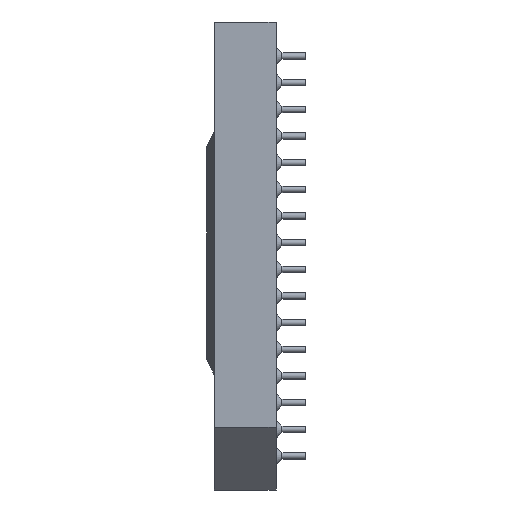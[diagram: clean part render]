
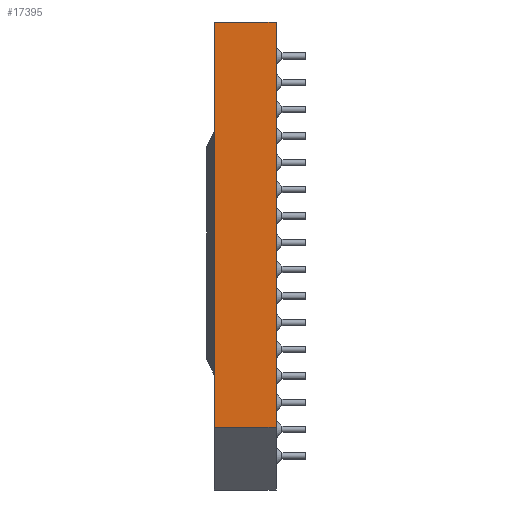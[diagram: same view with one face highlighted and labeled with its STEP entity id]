
A CAD part, left-side view. The second image highlights one B-rep face of the part: STEP entity #17395.
In plain terms, the highlighted planar face has unit normal (-1, 0, 0).
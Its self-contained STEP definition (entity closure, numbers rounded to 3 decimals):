
#306 = DIRECTION ( 'NONE',  ( 1., 0., 0. ) ) ;
#582 = VECTOR ( 'NONE', #23224, 1000. ) ;
#1046 = DIRECTION ( 'NONE',  ( 0., -1., 0. ) ) ;
#1106 = CARTESIAN_POINT ( 'NONE',  ( -16.1, 0., 11.15 ) ) ;
#2891 = EDGE_CURVE ( 'NONE', #16137, #19442, #15940, .T. ) ;
#4771 = PLANE ( 'NONE',  #27699 ) ;
#4991 = CARTESIAN_POINT ( 'NONE',  ( -16.1, 2.95, 11.15 ) ) ;
#6909 = EDGE_CURVE ( 'NONE', #10484, #19442, #28066, .T. ) ;
#7221 = ORIENTED_EDGE ( 'NONE', *, *, #10440, .F. ) ;
#7235 = CARTESIAN_POINT ( 'NONE',  ( -16.1, 0., 11.15 ) ) ;
#7409 = CARTESIAN_POINT ( 'NONE',  ( -16.1, 2.95, 11.15 ) ) ;
#7574 = FACE_OUTER_BOUND ( 'NONE', #22225, .T. ) ;
#8250 = CARTESIAN_POINT ( 'NONE',  ( -16.1, 2.95, -8.15 ) ) ;
#8926 = CARTESIAN_POINT ( 'NONE',  ( -16.1, 2.95, -8.15 ) ) ;
#10440 = EDGE_CURVE ( 'NONE', #25616, #16137, #15730, .T. ) ;
#10484 = VERTEX_POINT ( 'NONE', #18034 ) ;
#10788 = CARTESIAN_POINT ( 'NONE',  ( -16.1, 2.95, 11.15 ) ) ;
#14063 = ORIENTED_EDGE ( 'NONE', *, *, #2891, .F. ) ;
#14235 = DIRECTION ( 'NONE',  ( 0., -1., 0. ) ) ;
#15215 = DIRECTION ( 'NONE',  ( 0., 0., -1. ) ) ;
#15730 = LINE ( 'NONE', #23375, #25252 ) ;
#15940 = LINE ( 'NONE', #10788, #23265 ) ;
#16137 = VERTEX_POINT ( 'NONE', #4991 ) ;
#17395 = ADVANCED_FACE ( 'NONE', ( #7574 ), #4771, .F. ) ;
#17879 = DIRECTION ( 'NONE',  ( 0., 0., 1. ) ) ;
#18034 = CARTESIAN_POINT ( 'NONE',  ( -16.1, 0., -8.15 ) ) ;
#19442 = VERTEX_POINT ( 'NONE', #7235 ) ;
#19767 = EDGE_CURVE ( 'NONE', #25616, #10484, #24397, .T. ) ;
#22225 = EDGE_LOOP ( 'NONE', ( #7221, #30552, #32263, #14063 ) ) ;
#23224 = DIRECTION ( 'NONE',  ( 0., 0., 1. ) ) ;
#23265 = VECTOR ( 'NONE', #1046, 1000. ) ;
#23375 = CARTESIAN_POINT ( 'NONE',  ( -16.1, 2.95, 11.15 ) ) ;
#24397 = LINE ( 'NONE', #8926, #27826 ) ;
#25252 = VECTOR ( 'NONE', #17879, 1000. ) ;
#25616 = VERTEX_POINT ( 'NONE', #8250 ) ;
#27699 = AXIS2_PLACEMENT_3D ( 'NONE', #7409, #306, #15215 ) ;
#27826 = VECTOR ( 'NONE', #14235, 1000. ) ;
#28066 = LINE ( 'NONE', #1106, #582 ) ;
#30552 = ORIENTED_EDGE ( 'NONE', *, *, #19767, .T. ) ;
#32263 = ORIENTED_EDGE ( 'NONE', *, *, #6909, .T. ) ;
